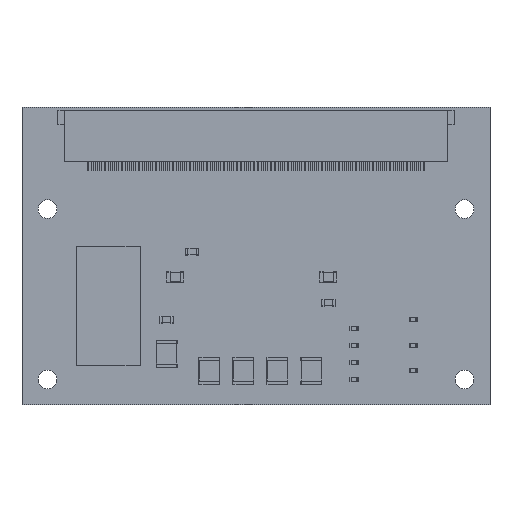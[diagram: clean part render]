
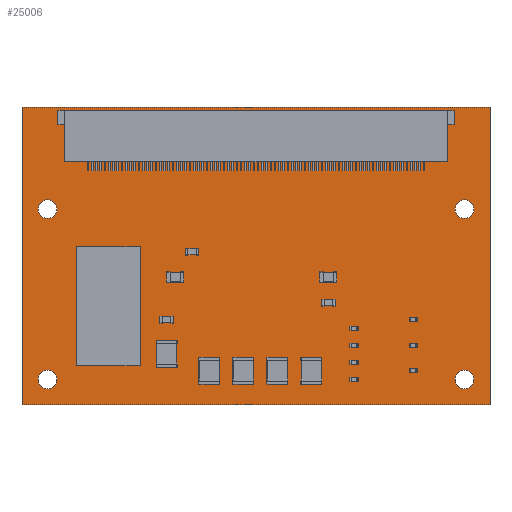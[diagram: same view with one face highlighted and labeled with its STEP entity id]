
A CAD part, top view. The second image highlights one B-rep face of the part: STEP entity #25006.
In plain terms, the highlighted planar face has unit normal (0, 0, 1).
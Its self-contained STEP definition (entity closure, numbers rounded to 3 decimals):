
#24817 = VERTEX_POINT('',#24818);
#24818 = CARTESIAN_POINT('',(55.,0.,1.53));
#24824 = EDGE_CURVE('',#24817,#24825,#24827,.T.);
#24825 = VERTEX_POINT('',#24826);
#24826 = CARTESIAN_POINT('',(0.,0.,1.53));
#24827 = LINE('',#24828,#24829);
#24828 = CARTESIAN_POINT('',(55.,0.,1.53));
#24829 = VECTOR('',#24830,1.);
#24830 = DIRECTION('',(-1.,0.,0.));
#24857 = VERTEX_POINT('',#24858);
#24858 = CARTESIAN_POINT('',(55.,35.,1.53));
#24864 = EDGE_CURVE('',#24857,#24817,#24865,.T.);
#24865 = LINE('',#24866,#24867);
#24866 = CARTESIAN_POINT('',(55.,35.,1.53));
#24867 = VECTOR('',#24868,1.);
#24868 = DIRECTION('',(0.,-1.,0.));
#24886 = EDGE_CURVE('',#24825,#24887,#24889,.T.);
#24887 = VERTEX_POINT('',#24888);
#24888 = CARTESIAN_POINT('',(0.,35.,1.53));
#24889 = LINE('',#24890,#24891);
#24890 = CARTESIAN_POINT('',(0.,0.,1.53));
#24891 = VECTOR('',#24892,1.);
#24892 = DIRECTION('',(0.,1.,0.));
#25006 = ADVANCED_FACE('',(#25007,#25018,#25029,#25040,#25051,#25062,
    #25073,#25084),#25095,.T.);
#25007 = FACE_BOUND('',#25008,.T.);
#25008 = EDGE_LOOP('',(#25009,#25010,#25011,#25017));
#25009 = ORIENTED_EDGE('',*,*,#24824,.F.);
#25010 = ORIENTED_EDGE('',*,*,#24864,.F.);
#25011 = ORIENTED_EDGE('',*,*,#25012,.F.);
#25012 = EDGE_CURVE('',#24887,#24857,#25013,.T.);
#25013 = LINE('',#25014,#25015);
#25014 = CARTESIAN_POINT('',(0.,35.,1.53));
#25015 = VECTOR('',#25016,1.);
#25016 = DIRECTION('',(1.,0.,0.));
#25017 = ORIENTED_EDGE('',*,*,#24886,.F.);
#25018 = FACE_BOUND('',#25019,.T.);
#25019 = EDGE_LOOP('',(#25020));
#25020 = ORIENTED_EDGE('',*,*,#25021,.T.);
#25021 = EDGE_CURVE('',#25022,#25022,#25024,.T.);
#25022 = VERTEX_POINT('',#25023);
#25023 = CARTESIAN_POINT('',(3.,1.9,1.53));
#25024 = CIRCLE('',#25025,1.1);
#25025 = AXIS2_PLACEMENT_3D('',#25026,#25027,#25028);
#25026 = CARTESIAN_POINT('',(3.,3.,1.53));
#25027 = DIRECTION('',(-0.,0.,-1.));
#25028 = DIRECTION('',(-0.,-1.,0.));
#25029 = FACE_BOUND('',#25030,.T.);
#25030 = EDGE_LOOP('',(#25031));
#25031 = ORIENTED_EDGE('',*,*,#25032,.T.);
#25032 = EDGE_CURVE('',#25033,#25033,#25035,.T.);
#25033 = VERTEX_POINT('',#25034);
#25034 = CARTESIAN_POINT('',(10.,8.45,1.53));
#25035 = CIRCLE('',#25036,0.55);
#25036 = AXIS2_PLACEMENT_3D('',#25037,#25038,#25039);
#25037 = CARTESIAN_POINT('',(10.,9.,1.53));
#25038 = DIRECTION('',(-0.,0.,-1.));
#25039 = DIRECTION('',(-0.,-1.,0.));
#25040 = FACE_BOUND('',#25041,.T.);
#25041 = EDGE_LOOP('',(#25042));
#25042 = ORIENTED_EDGE('',*,*,#25043,.T.);
#25043 = EDGE_CURVE('',#25044,#25044,#25046,.T.);
#25044 = VERTEX_POINT('',#25045);
#25045 = CARTESIAN_POINT('',(10.,10.99,1.53));
#25046 = CIRCLE('',#25047,0.55);
#25047 = AXIS2_PLACEMENT_3D('',#25048,#25049,#25050);
#25048 = CARTESIAN_POINT('',(10.,11.54,1.53));
#25049 = DIRECTION('',(-0.,0.,-1.));
#25050 = DIRECTION('',(-0.,-1.,0.));
#25051 = FACE_BOUND('',#25052,.T.);
#25052 = EDGE_LOOP('',(#25053));
#25053 = ORIENTED_EDGE('',*,*,#25054,.T.);
#25054 = EDGE_CURVE('',#25055,#25055,#25057,.T.);
#25055 = VERTEX_POINT('',#25056);
#25056 = CARTESIAN_POINT('',(52.,1.9,1.53));
#25057 = CIRCLE('',#25058,1.1);
#25058 = AXIS2_PLACEMENT_3D('',#25059,#25060,#25061);
#25059 = CARTESIAN_POINT('',(52.,3.,1.53));
#25060 = DIRECTION('',(-0.,0.,-1.));
#25061 = DIRECTION('',(-0.,-1.,0.));
#25062 = FACE_BOUND('',#25063,.T.);
#25063 = EDGE_LOOP('',(#25064));
#25064 = ORIENTED_EDGE('',*,*,#25065,.T.);
#25065 = EDGE_CURVE('',#25066,#25066,#25068,.T.);
#25066 = VERTEX_POINT('',#25067);
#25067 = CARTESIAN_POINT('',(10.,13.53,1.53));
#25068 = CIRCLE('',#25069,0.55);
#25069 = AXIS2_PLACEMENT_3D('',#25070,#25071,#25072);
#25070 = CARTESIAN_POINT('',(10.,14.08,1.53));
#25071 = DIRECTION('',(-0.,0.,-1.));
#25072 = DIRECTION('',(-0.,-1.,0.));
#25073 = FACE_BOUND('',#25074,.T.);
#25074 = EDGE_LOOP('',(#25075));
#25075 = ORIENTED_EDGE('',*,*,#25076,.T.);
#25076 = EDGE_CURVE('',#25077,#25077,#25079,.T.);
#25077 = VERTEX_POINT('',#25078);
#25078 = CARTESIAN_POINT('',(3.,21.9,1.53));
#25079 = CIRCLE('',#25080,1.1);
#25080 = AXIS2_PLACEMENT_3D('',#25081,#25082,#25083);
#25081 = CARTESIAN_POINT('',(3.,23.,1.53));
#25082 = DIRECTION('',(-0.,0.,-1.));
#25083 = DIRECTION('',(-0.,-1.,0.));
#25084 = FACE_BOUND('',#25085,.T.);
#25085 = EDGE_LOOP('',(#25086));
#25086 = ORIENTED_EDGE('',*,*,#25087,.T.);
#25087 = EDGE_CURVE('',#25088,#25088,#25090,.T.);
#25088 = VERTEX_POINT('',#25089);
#25089 = CARTESIAN_POINT('',(52.,21.9,1.53));
#25090 = CIRCLE('',#25091,1.1);
#25091 = AXIS2_PLACEMENT_3D('',#25092,#25093,#25094);
#25092 = CARTESIAN_POINT('',(52.,23.,1.53));
#25093 = DIRECTION('',(-0.,0.,-1.));
#25094 = DIRECTION('',(-0.,-1.,0.));
#25095 = PLANE('',#25096);
#25096 = AXIS2_PLACEMENT_3D('',#25097,#25098,#25099);
#25097 = CARTESIAN_POINT('',(0.,0.,1.53));
#25098 = DIRECTION('',(0.,0.,1.));
#25099 = DIRECTION('',(1.,0.,-0.));
